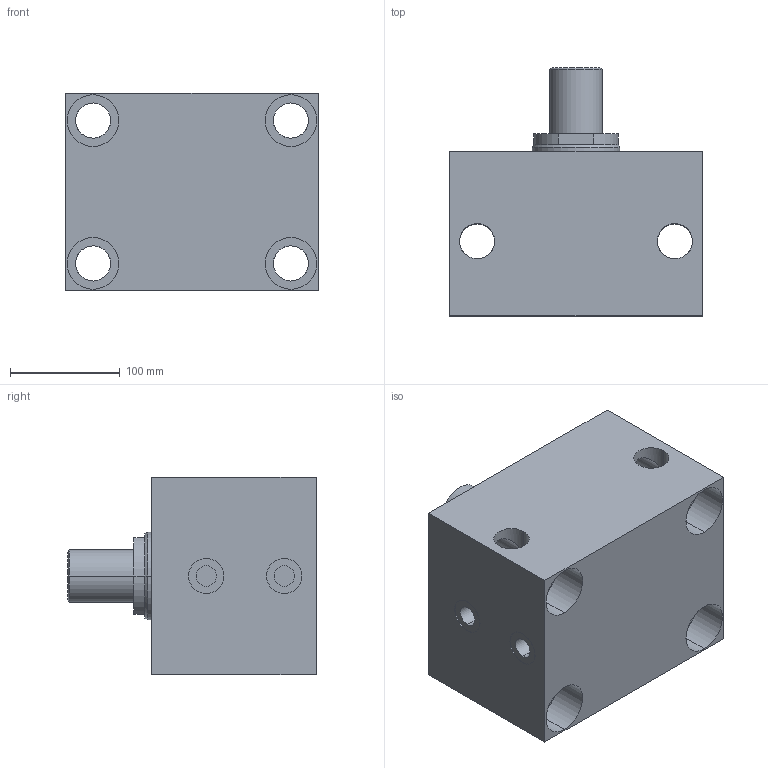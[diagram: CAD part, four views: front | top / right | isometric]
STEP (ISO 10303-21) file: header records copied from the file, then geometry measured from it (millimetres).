
FILE_DESCRIPTION (( 'STEP AP203' ), '1' );
FILE_NAME ('GERMA_Blockzylinder_600-125-040-A.STEP', '2016-04-06T16:05:54', ( '' ), ( '' ), 'SwSTEP 2.0', 'SolidWorks 2015', '' );
FILE_SCHEMA (( 'CONFIG_CONTROL_DESIGN' ));
Length unit declared in the file: millimetre
Products named in the file (3): GERMA_Blockzylinder_600-125-040-A; Kolben 60x-125_Kolben DU.125-Hub40-AG; GH-600-125_GH-600-125-040
Assembly tree (2 placements, depth 2):
  GERMA_Blockzylinder_600-125-040-A
    GH-600-125_GH-600-125-040
    Kolben 60x-125_Kolben DU.125-Hub40-AG
Bounding box: 230 x 226 x 180 mm (x, y, z)
Volume: 5167622.7 mm3; surface area: 418886.4 mm2
Topology: 2 solids, 2 shells, 113 faces, 258 edges, 157 vertices
Faces by surface type: cylinder 71, plane 30, cone 12
Entity records: 3498 total; most frequent: CARTESIAN_POINT 625, DIRECTION 579, ORIENTED_EDGE 508, EDGE_CURVE 254, AXIS2_PLACEMENT_3D 239, VERTEX_POINT 157, EDGE_LOOP 145, CIRCLE 121
